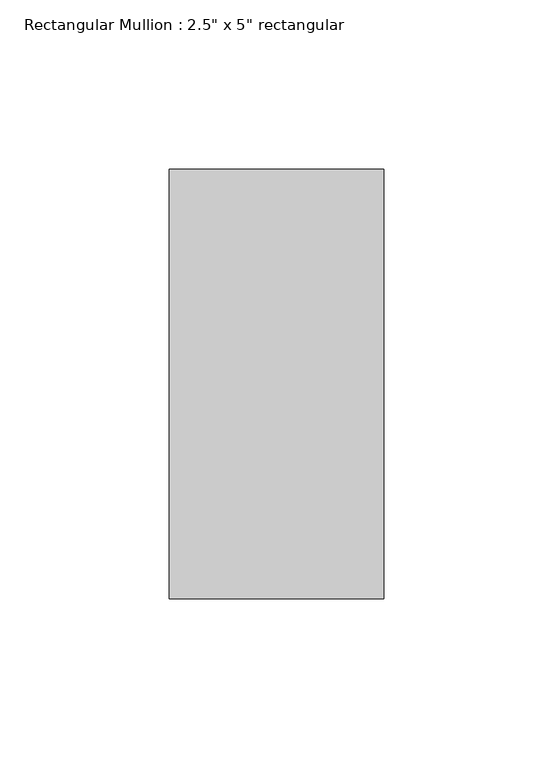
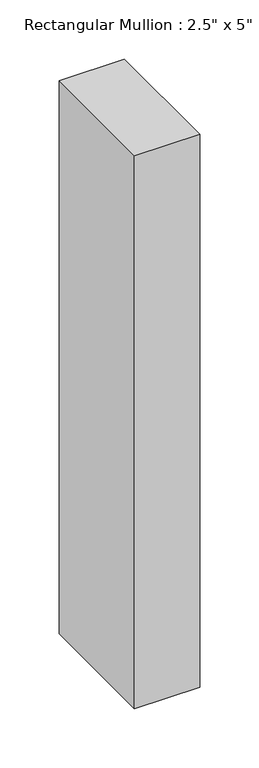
"""IFC4 building model written with IfcOpenShell, lengths in millimetres: member geometry."""

from ifc_helpers import new_model, si_unit, frame, origin, place, context, project, spatial, polyline, outline, extrude, source, transform, mapped, element, save


def member_92905304(model_context):
    return source(origin(), model_context, "Body", "SweptSolid", [
        extrude(outline(polyline([(0.0, 63.5), (0.0, -63.5), (-63.5, -63.5), (-63.5, 63.5), (0.0, 63.5)])), frame((0.0, 0.0, -569.8781294), z_axis=(0.0, 0.0, 1.0), x_axis=(1.0, 0.0, 0.0)), (0.0, 0.0, 1.0), 569.8781294),
    ])


if __name__ == "__main__":
    model = new_model("IFC4")
    model_context = context("Model", 3, world=origin())
    ifc_project = project(units=[si_unit("LENGTHUNIT", "METRE", prefix="MILLI")], contexts=[model_context])
    site = spatial("IfcSite", under=ifc_project)
    building = spatial("IfcBuilding", under=site)
    placement = place(None, origin())
    member_shape = member_92905304(model_context)
    element("IfcMember", 1, ObjectType="Rectangular Mullion : 2.5\" x 5\" rectangular", at=placement, inside=building, context=model_context, shape_type="MappedRepresentation", body=[
        mapped(member_shape, transform((0.0, 0.0, 0.0), x_axis=(1.0, 0.0, 0.0), y_axis=(0.0, 1.0, 0.0), z_axis=(0.0, 0.0, 1.0))),
    ])
    save(model, "model.ifc")
